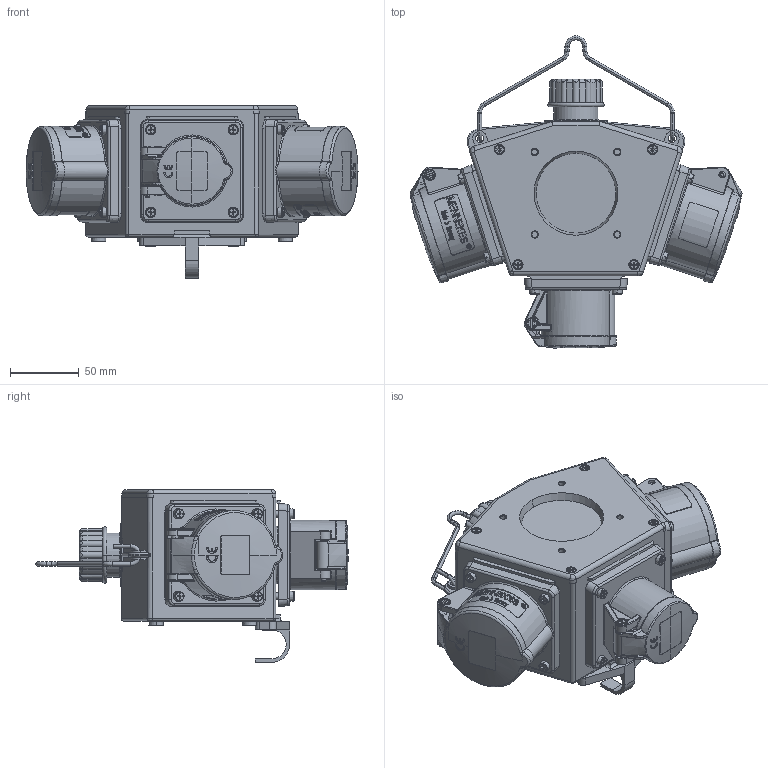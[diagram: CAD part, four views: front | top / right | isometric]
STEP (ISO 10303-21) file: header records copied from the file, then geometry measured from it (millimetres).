
FILE_DESCRIPTION((''),'2;1');
FILE_NAME('1117215_ASM_SW0001','2018-05-23T',('gisse'),('MENNEKES'),'PRO/ENGINEER BY PARAMETRIC TECHNOLOGY CORPORATION, 2015440','PRO/ENGINEER BY PARAMETRIC TECHNOLOGY CORPORATION, 2015440','');
FILE_SCHEMA(('AUTOMOTIVE_DESIGN { 1 0 10303 214 1 1 1 1 }'));
Products named in the file (1): 1117215_ASM_SW0001
Bounding box: 241.4 x 227.16 x 125.5 mm (x, y, z)
Volume: 1857570.4 mm3; surface area: 146346.8 mm2
Topology: 2 solids, 2 shells, 2778 faces, 7452 edges, 4805 vertices
Faces by surface type: plane 1774, cylinder 447, bspline 185, torus 183, cone 154, sphere 32, extrusion 3
Entity records: 155880 total; most frequent: CARTESIAN_POINT 35270, ORIENTED_EDGE 14868, DIRECTION 12182, PRESENTATION_STYLE_ASSIGNMENT 10132, STYLED_ITEM 7439, CURVE_STYLE 7437, EDGE_CURVE 7434, FILL_AREA_STYLE_COLOUR 5356
